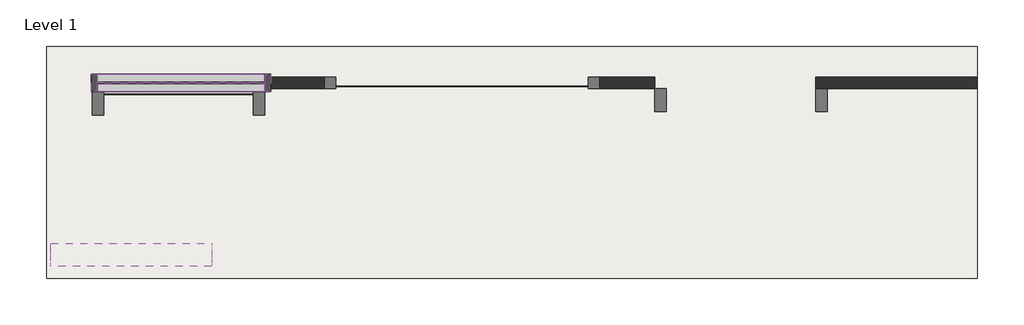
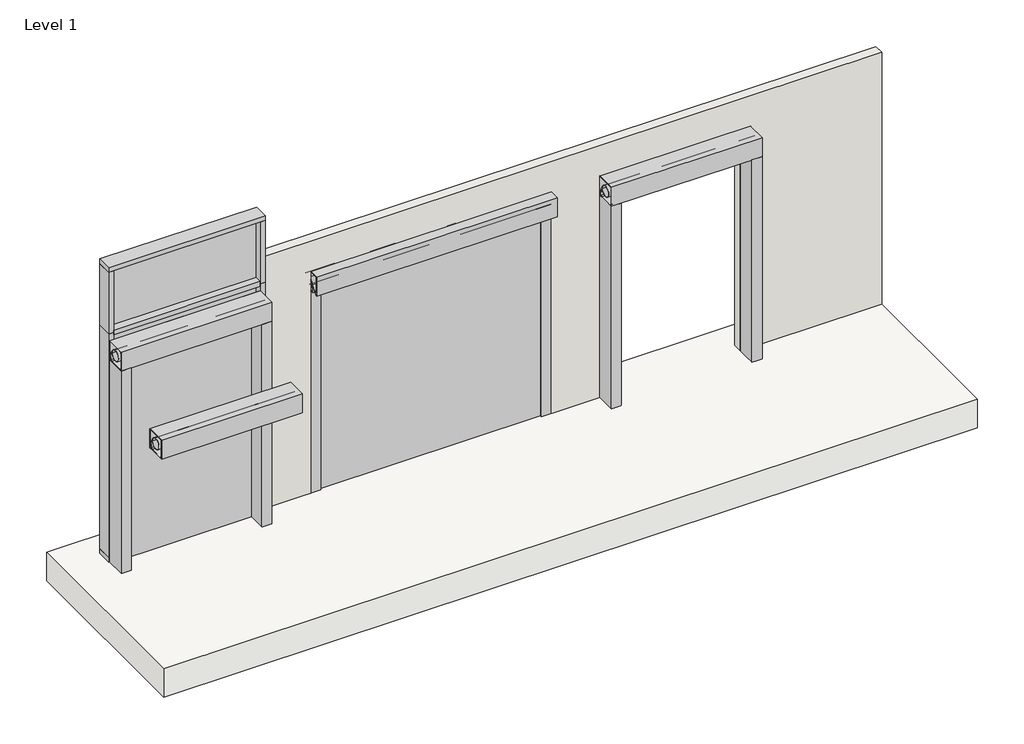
# One storey: 7 members, 4 proxies, 2 plates, 1 slab, 1 wall.
"""IFC4 building model written with IfcOpenShell, lengths in millimetres."""

from ifc_helpers import new_model, si_unit, frame, origin, place, context, project, spatial, polyline, outline, extrude, transform, mapped, element, save
from components import generic_models_8fcbebde, generic_models_b0a361bf, generic_models_d5eb54bd, type_1_e4194663, rectangular_mullion1_50_x_150mm_cef6ab5d, rectangular_mullion1_50_x_150mm_eab770d3, rectangular_mullion1_50_x_150mm_8b0a0560, rectangular_mullion1_50_x_150mm_9b8962c0, system_panel_glazed_b36aab9d, system_panel_glazed_09349be2

model = new_model("IFC4")

# Units and contexts
model_context = context("Model", 3, world=origin())
ifc_project = project(units=[si_unit("LENGTHUNIT", "METRE", prefix="MILLI")], contexts=[model_context])

# Site, building, storey
site = spatial("IfcSite", under=ifc_project)
building = spatial("IfcBuilding", under=site)
storey = spatial("IfcBuildingStorey", under=building, Name="Level 1", Elevation=0.0)

# Proxies
placement = place(None, origin())
generic_models_shape = generic_models_8fcbebde(model_context)
element("IfcBuildingElementProxy", 1, Name="וילון אש מרכזי : וילון אש מרכזי", ObjectType="וילון אש מרכזי : וילון אש מרכזי", at=placement, inside=storey, context=model_context, shape_type="MappedRepresentation", body=[
    mapped(generic_models_shape, transform((507.2911193, 2148.3503233, 0.0), x_axis=(1.0, 0.0, 0.0), y_axis=(0.0, 1.0, 0.0), z_axis=(0.0, 0.0, 1.0))),
])
generic_models_2_shape = generic_models_b0a361bf(model_context)
element("IfcBuildingElementProxy", 2, Name="וילון אש צמוד קיר : וילון אש צמוד קיר", ObjectType="וילון אש צמוד קיר : וילון אש צמוד קיר", at=placement, inside=storey, context=model_context, shape_type="MappedRepresentation", body=[
    mapped(generic_models_2_shape, transform((5763.3641644, 3498.342626, 0.0), x_axis=(1.0, 0.0, 0.0), y_axis=(0.0, 1.0, 0.0), z_axis=(0.0, 0.0, 1.0))),
])
generic_models_3_shape = generic_models_d5eb54bd(model_context)
element("IfcBuildingElementProxy", 3, Name="וילון אש צמוד קיר : וילון אש צמוד קיר", ObjectType="וילון אש צמוד קיר : וילון אש צמוד קיר", at=placement, inside=storey, context=model_context, shape_type="MappedRepresentation", body=[
    mapped(generic_models_3_shape, transform((867.2911193, 3468.3503233, 0.0), x_axis=(1.0, 0.0, 0.0), y_axis=(0.0, 1.0, 0.0), z_axis=(0.0, 0.0, 1.0))),
])
type_1_shape = type_1_e4194663(model_context)
element("IfcBuildingElementProxy", 4, Name="וילון אש בחלק מהקיר : Type 1", ObjectType="וילון אש בחלק מהקיר : Type 1", at=placement, inside=storey, context=model_context, shape_type="MappedRepresentation", body=[
    mapped(type_1_shape, transform((4209.8949571, 3748.3503233, 0.0), x_axis=(-1.0, 0.0, 0.0), y_axis=(0.0, -1.0, 0.0), z_axis=(0.0, 0.0, 1.0))),
])

# Members
rectangular_mullion1_50_x_150mm_shape = rectangular_mullion1_50_x_150mm_cef6ab5d(model_context)
element("IfcMember", 5, ObjectType="Rectangular Mullion1 : 50 x 150mm", at=placement, inside=storey, context=model_context, shape_type="MappedRepresentation", body=[
    mapped(rectangular_mullion1_50_x_150mm_shape, transform((859.4188519, 3748.3503233, 3100.0), x_axis=(0.0, 0.0, 1.0), y_axis=(0.0, 1.0, 0.0), z_axis=(-1.0, 0.0, 0.0))),
])
element("IfcMember", 6, ObjectType="Rectangular Mullion1 : 50 x 150mm", at=placement, inside=storey, context=model_context, shape_type="MappedRepresentation", body=[
    mapped(rectangular_mullion1_50_x_150mm_shape, transform((2419.4188519, 3748.3503233, 0.0), x_axis=(0.0, 0.0, -1.0), y_axis=(0.0, 1.0, 0.0), z_axis=(1.0, 0.0, 0.0))),
])
rectangular_mullion1_50_x_150mm_2_shape = rectangular_mullion1_50_x_150mm_eab770d3(model_context)
element("IfcMember", 7, ObjectType="Rectangular Mullion1 : 50 x 150mm", at=placement, inside=storey, context=model_context, shape_type="MappedRepresentation", body=[
    mapped(rectangular_mullion1_50_x_150mm_2_shape, transform((909.4188519, 3748.3503233, 2400.0), x_axis=(0.0, 0.0, 1.0), y_axis=(0.0, 1.0, 0.0), z_axis=(-1.0, 0.0, 0.0))),
])
rectangular_mullion1_50_x_150mm_3_shape = rectangular_mullion1_50_x_150mm_8b0a0560(model_context)
element("IfcMember", 8, ObjectType="Rectangular Mullion1 : 50 x 150mm", at=placement, inside=storey, context=model_context, shape_type="MappedRepresentation", body=[
    mapped(rectangular_mullion1_50_x_150mm_3_shape, transform((859.4188519, 3748.3503233, 50.0), x_axis=(-1.0, 0.0, 0.0), y_axis=(0.0, 1.0, 0.0), z_axis=(0.0, 0.0, -1.0))),
])
rectangular_mullion1_50_x_150mm_4_shape = rectangular_mullion1_50_x_150mm_9b8962c0(model_context)
element("IfcMember", 9, ObjectType="Rectangular Mullion1 : 50 x 150mm", at=placement, inside=storey, context=model_context, shape_type="MappedRepresentation", body=[
    mapped(rectangular_mullion1_50_x_150mm_4_shape, transform((2419.4188519, 3748.3503233, 3050.0), x_axis=(1.0, 0.0, 0.0), y_axis=(0.0, 1.0, 0.0), z_axis=(0.0, 0.0, 1.0))),
])
element("IfcMember", 10, ObjectType="Rectangular Mullion1 : 50 x 150mm", at=placement, inside=storey, context=model_context, shape_type="MappedRepresentation", body=[
    mapped(rectangular_mullion1_50_x_150mm_4_shape, transform((859.4188519, 3748.3503233, 2400.0), x_axis=(-1.0, 0.0, 0.0), y_axis=(0.0, 1.0, 0.0), z_axis=(0.0, 0.0, -1.0))),
])
element("IfcMember", 11, ObjectType="Rectangular Mullion1 : 50 x 150mm", at=placement, inside=storey, context=model_context, shape_type="MappedRepresentation", body=[
    mapped(rectangular_mullion1_50_x_150mm_3_shape, transform((2419.4188519, 3748.3503233, 2400.0), x_axis=(1.0, 0.0, 0.0), y_axis=(0.0, 1.0, 0.0), z_axis=(0.0, 0.0, 1.0))),
])

# Plates
system_panel_glazed_shape = system_panel_glazed_b36aab9d(model_context)
element("IfcPlate", 12, ObjectType="System Panel : Glazed", at=placement, inside=storey, context=model_context, shape_type="MappedRepresentation", body=[
    mapped(system_panel_glazed_shape, transform((1639.4188519, 3748.3503233, 50.0), x_axis=(-1.0, 0.0, 0.0), y_axis=(0.0, -1.0, 0.0), z_axis=(0.0, 0.0, 1.0))),
])
system_panel_glazed_2_shape = system_panel_glazed_09349be2(model_context)
element("IfcPlate", 13, ObjectType="System Panel : Glazed", at=placement, inside=storey, context=model_context, shape_type="MappedRepresentation", body=[
    mapped(system_panel_glazed_2_shape, transform((1639.4188519, 3748.3503233, 2425.0), x_axis=(-1.0, 0.0, 0.0), y_axis=(0.0, -1.0, 0.0), z_axis=(0.0, 0.0, 1.0))),
])

# Slab
element("IfcSlab", 14, ObjectType="Floor 1", at=placement, inside=storey, context=model_context, shape_type="SweptSolid", body=[
    extrude(outline(polyline([(8569.4188519, 4066.1941885), (8569.4188519, 2046.1941885), (469.4188519, 2046.1941885), (469.4188519, 4066.1941885), (8569.4188519, 4066.1941885)])), frame((0.0, 0.0, -300.0), z_axis=(0.0, 0.0, 1.0), x_axis=(1.0, 0.0, 0.0)), (0.0, 0.0, 1.0), 300.0),
])

# Wall
element("IfcWall", 15, ObjectType="Wall 1", at=placement, inside=storey, context=model_context, shape_type="SweptSolid", body=[
    extrude(outline(polyline([(0.0, 8569.4188519), (2650.6289213, 8569.4188519), (2650.6289213, 2419.4188519), (0.0, 2419.4188519), (0.0, 2887.1913434), (2332.0, 2887.1913434), (2332.0, 5282.5985709), (0.0, 5282.5985709), (0.0, 5763.3549856), (2133.6, 5763.3549856), (2133.6, 7163.3549856), (0.0, 7163.3549856), (0.0, 8569.4188519)])), frame((0.0, 3698.3503233, 0.0), z_axis=(0.0, 1.0, 0.0), x_axis=(0.0, 0.0, 1.0)), (0.0, 0.0, 1.0), 100.0),
])

save(model, "model.ifc")
